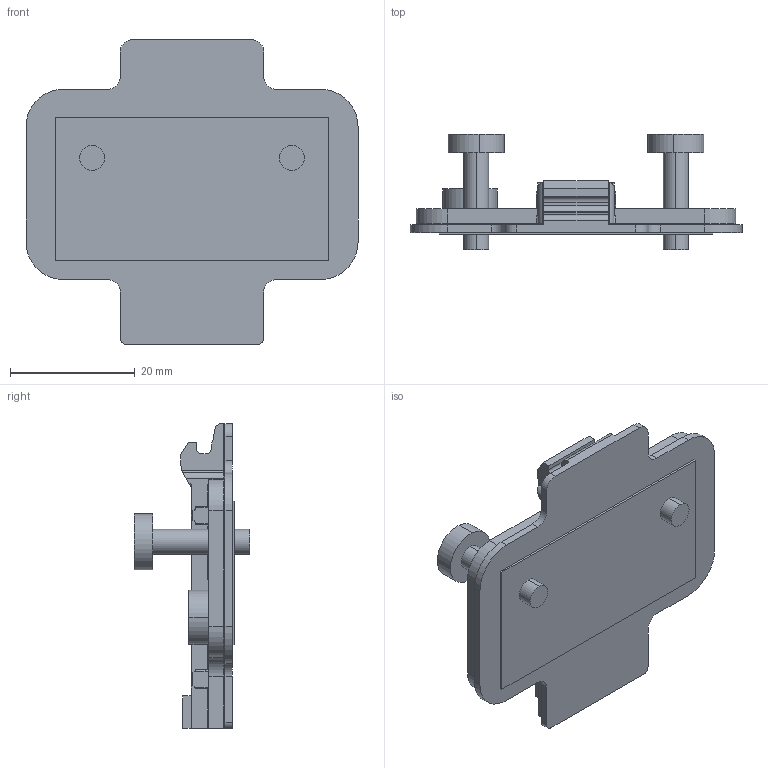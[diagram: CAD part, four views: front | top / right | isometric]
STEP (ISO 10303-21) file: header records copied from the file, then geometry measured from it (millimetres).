
FILE_DESCRIPTION (( 'STEP AP203' ), '1' );
FILE_NAME ('81T0PTQA.STEP', '2024-07-26T08:22:56', ( '微软用户' ), ( '微软中国' ), 'SwSTEP 2.0', 'SolidWorks 2021', '' );
FILE_SCHEMA (( 'CONFIG_CONTROL_DESIGN' ));
Length unit declared in the file: millimetre
Products named in the file (1): 81T0PTQA
Bounding box: 53.2 x 18.57 x 48.85 mm (x, y, z)
Volume: 9713.9 mm3; surface area: 6067.4 mm2
Topology: 1 solids, 1 shells, 274 faces, 733 edges, 467 vertices
Faces by surface type: cylinder 128, plane 105, torus 35, sphere 4, bspline 2
Entity records: 8895 total; most frequent: CARTESIAN_POINT 1878, DIRECTION 1499, ORIENTED_EDGE 1458, EDGE_CURVE 729, AXIS2_PLACEMENT_3D 549, VERTEX_POINT 467, VECTOR 401, LINE 401
